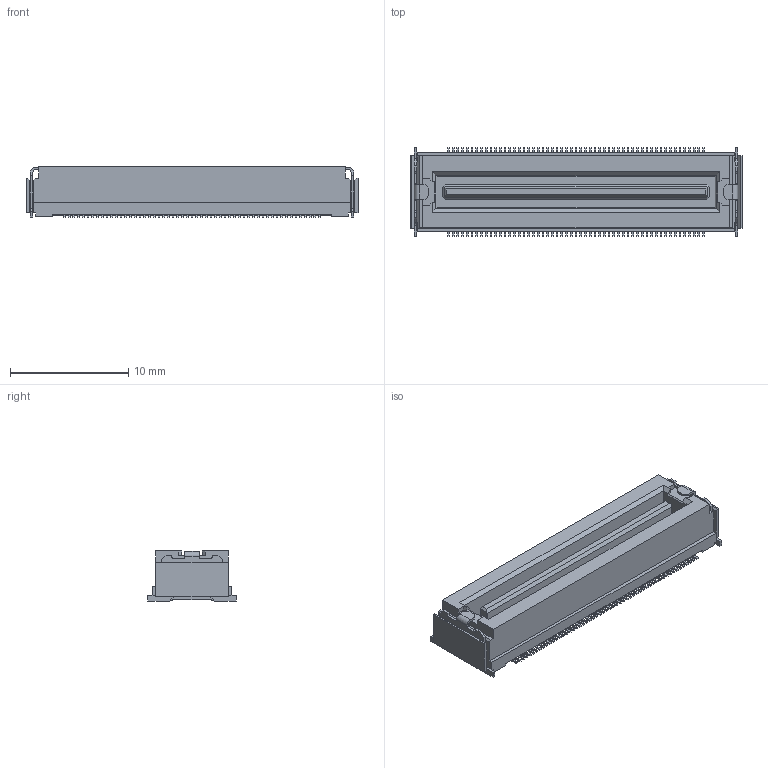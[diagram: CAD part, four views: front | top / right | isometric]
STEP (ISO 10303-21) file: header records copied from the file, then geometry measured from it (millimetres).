
FILE_DESCRIPTION(('Creo Elements/Direct Modeling STEP Export'),'2;1');
FILE_NAME('P3D161_DU00-110SB.stp','2017-11-27T15:46:28',(''),(''),'Creo Elements/Direct Modeling STEP processor for AP214 (Solid Model)','Creo Elements/Direct Modeling 19.0F 14-Feb-2017 (C) Parametric Technology GmbH','');
FILE_SCHEMA(('AUTOMOTIVE_DESIGN { 1 0 10303 214 1 1 1 1 }'));
Length unit declared in the file: millimetre
Products named in the file (2): DU00-110SB
Assembly tree (1 placements, depth 2):
  DU00-110SB
    DU00-110SB
Bounding box: 28.1 x 7.5 x 4.25 mm (x, y, z)
Volume: 558.6 mm3; surface area: 1003.2 mm2
Topology: 1 solids, 1 shells, 1129 faces, 3189 edges, 2118 vertices
Faces by surface type: plane 893, cylinder 236
Entity records: 36212 total; most frequent: CARTESIAN_POINT 6434, ORIENTED_EDGE 6378, DIRECTION 5919, EDGE_CURVE 3189, VECTOR 2713, LINE 2713, VERTEX_POINT 2118, AXIS2_PLACEMENT_3D 1603
